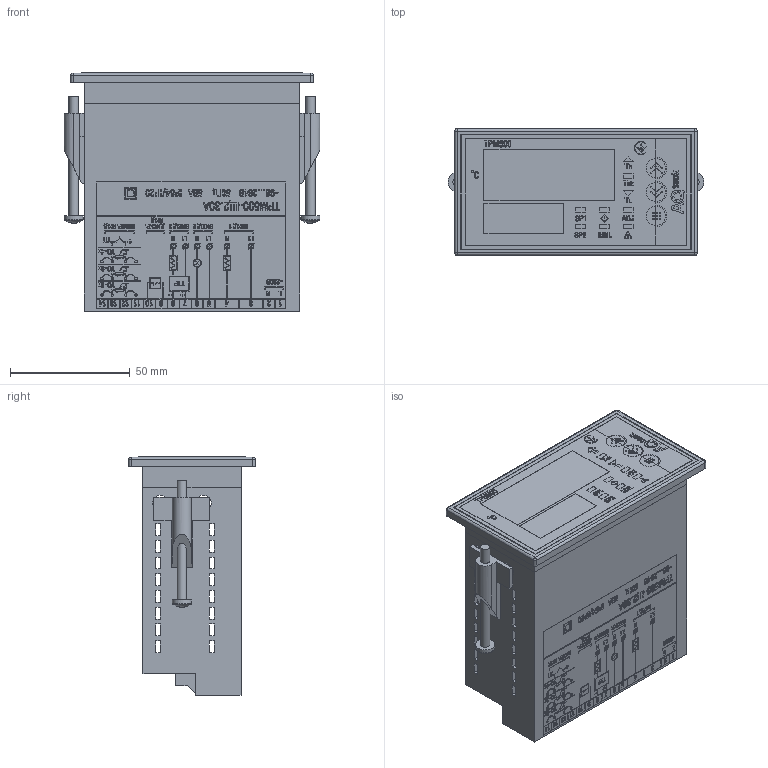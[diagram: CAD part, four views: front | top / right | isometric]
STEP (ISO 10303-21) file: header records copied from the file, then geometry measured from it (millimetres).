
FILE_DESCRIPTION (( 'STEP AP214' ), '1' );
FILE_NAME ('ﾒﾐﾌ500-ﾙ2.30ﾀ [U00].STEP', '2025-03-11T09:31:31', ( '' ), ( '' ), 'SwSTEP 2.0', 'SolidWorks 2019', '' );
FILE_SCHEMA (( 'AUTOMOTIVE_DESIGN' ));
Length unit declared in the file: millimetre
Products named in the file (10): klemm_2p(19x21mm); óù³ëüíþâà÷ (Ù2); ﾒﾐﾌ500-ﾙ2.30ﾀ [U00]; M4 x 0.7 x 40 Type I Cross Recessed PHMS; 2EDGKR-5.08-16; BoardsPCBﾒﾐﾌ500_ﾙ2; Êîðïóñ ÒÐÌ500-Ù2.30A; 2EDGKR-5.08-1p; AQ_TRM500_001F03M; Êð³ïëåííÿ ï³ä âèíò Ì4
Assembly tree (22 placements, depth 3):
  ﾒﾐﾌ500-ﾙ2.30ﾀ [U00]
    2EDGKR-5.08-16
      2EDGKR-5.08-1p  x12
    óù³ëüíþâà÷ (Ù2)
    Êîðïóñ ÒÐÌ500-Ù2.30A
    Êð³ïëåííÿ ï³ä âèíò Ì4  x2
    M4 x 0.7 x 40 Type I Cross Recessed PHMS  x2
    AQ_TRM500_001F03M
    BoardsPCBﾒﾐﾌ500_ﾙ2
    klemm_2p(19x21mm)
Bounding box: 107 x 53 x 99.63 mm (x, y, z)
Volume: 93553 mm3; surface area: 126750.3 mm2
Topology: 262 solids, 262 shells, 4808 faces, 12673 edges, 8410 vertices
Faces by surface type: plane 3480, bspline 1039, cylinder 281, sphere 6, torus 2
Full cylindrical faces by diameter (mm): 4 x2, 8 x5
Entity records: 175859 total; most frequent: CARTESIAN_POINT 37033, ORIENTED_EDGE 22530, DIRECTION 15988, EDGE_CURVE 11265, VECTOR 8844, LINE 8844, VERTEX_POINT 7505, EDGE_LOOP 4778
